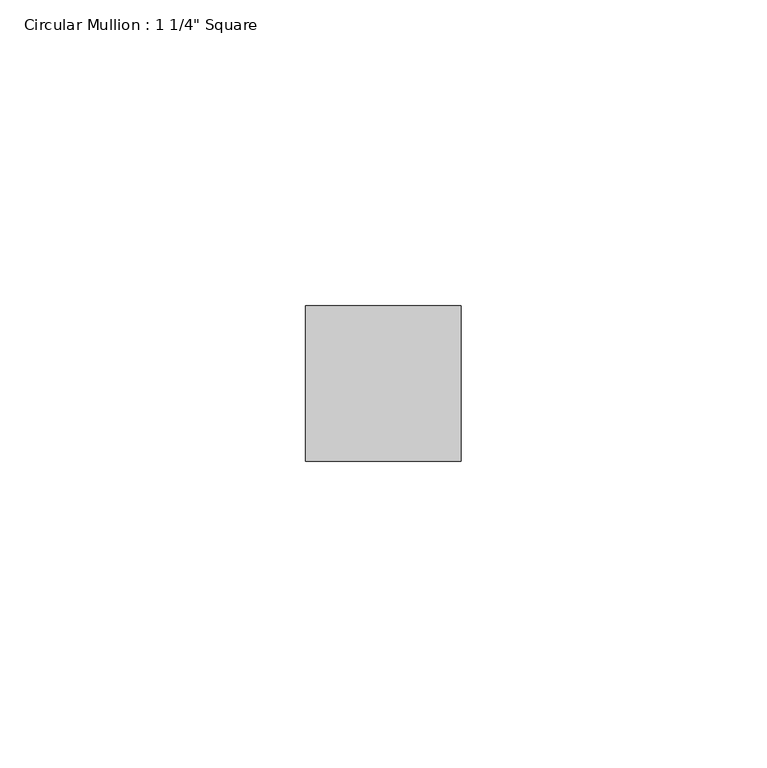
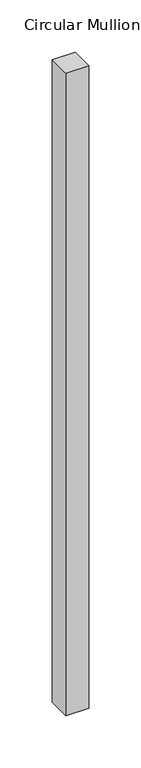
"""IFC4 building model written with IfcOpenShell, lengths in millimetres: member geometry."""

import ifcopenshell
import ifcopenshell.guid

model = None  # the IFC model being written
_history = None  # IfcOwnerHistory: only IFC2X3 demands one
_inside = {}  # id of a spatial element -> (the spatial element, [elements in it])
_under = {}  # id of a project, library or spatial element -> (it, [spatial elements below it])
_declared = {}  # id of a project -> (the project, [libraries it declares])
_typed = {}  # id of a type object -> (the type object, [elements of that type])
_made_of = {}  # id of a material, layer set ... -> (it, [elements and type objects made of it])


def new_model(schema):
    """Start an empty IFC model of exactly this schema.

    Asked for "IFC4X3", IfcOpenShell would pick the latest addendum, in which some entities
    have other attributes; the version numbers below select the first issue.
    IFC2X3 requires an IfcOwnerHistory on every rooted entity: one is made here for all.
    """
    global model, _history
    if schema == "IFC4X3":
        model = ifcopenshell.file(schema_version=(4, 3, 0, 0))
    else:
        model = ifcopenshell.file(schema=schema)
    _inside.clear()
    _under.clear()
    _declared.clear()
    _typed.clear()
    _made_of.clear()
    _history = None
    if model.schema == "IFC2X3":
        org = make("IfcOrganization", Name="unknown")
        user = make(
            "IfcPersonAndOrganization",
            ThePerson=make("IfcPerson", FamilyName="unknown"),
            TheOrganization=org,
        )
        app = make(
            "IfcApplication",
            ApplicationDeveloper=org,
            Version="unknown",
            ApplicationFullName="unknown",
            ApplicationIdentifier="unknown",
        )
        _history = make(
            "IfcOwnerHistory",
            OwningUser=user,
            OwningApplication=app,
            ChangeAction="ADDED",
            CreationDate=0,
        )
    return model


def make(cls, **values):
    """One entity of the class cls with the attributes given. An attribute that is None is left unset."""
    return model.create_entity(
        cls, **{name: value for name, value in values.items() if value is not None}
    )


def rooted(cls, **values):
    """An entity with a GlobalId (a new one), such as an element, a storey or a relation."""
    return make(cls, GlobalId=ifcopenshell.guid.new(), OwnerHistory=_history, **values)


def si_unit(unit_type, name, prefix=None):
    """IfcSIUnit, for example si_unit("LENGTHUNIT", "METRE", prefix="MILLI")."""
    return make("IfcSIUnit", UnitType=unit_type, Prefix=prefix, Name=name)


def assignment(units):
    """IfcUnitAssignment: the units of a project."""
    return None if units is None else make("IfcUnitAssignment", Units=units)


def point(xyz):
    """IfcCartesianPoint."""
    return None if xyz is None else make("IfcCartesianPoint", Coordinates=xyz)


def direction(xyz):
    """IfcDirection."""
    return None if xyz is None else make("IfcDirection", DirectionRatios=xyz)


def frame(location, z_axis=None, x_axis=None):
    """IfcAxis2Placement3D, a coordinate frame: its origin and axes. An axis left out is left unset."""
    return make(
        "IfcAxis2Placement3D",
        Location=point(location),
        Axis=direction(z_axis),
        RefDirection=direction(x_axis),
    )


def origin():
    """The frame at (0, 0, 0) with its axes left unset."""
    return frame((0.0, 0.0, 0.0))


def place(relative_to, where):
    """IfcLocalPlacement: puts the frame where relative to a parent placement (None: the world)."""
    return make(
        "IfcLocalPlacement", PlacementRelTo=relative_to, RelativePlacement=where
    )


def context(
    kind, dimensions, precision=None, world=None, true_north=None, identifier=None
):
    """IfcGeometricRepresentationContext, for example the 3D "Model" context."""
    return make(
        "IfcGeometricRepresentationContext",
        ContextIdentifier=identifier,
        ContextType=kind,
        CoordinateSpaceDimension=dimensions,
        Precision=precision,
        WorldCoordinateSystem=world,
        TrueNorth=true_north,
    )


def project(units=None, contexts=None):
    """IfcProject with its units and contexts."""
    return rooted(
        "IfcProject",
        Name="project",
        RepresentationContexts=contexts,
        UnitsInContext=assignment(units),
    )


def spatial(cls, under=None, at=None, **own):
    """A site, building, storey or space (cls), placed at a placement, below another one or the project."""
    s = rooted(cls, ObjectPlacement=at, **own)
    if under is not None:
        _under.setdefault(under.id(), (under, []))[1].append(s)
    return s


def polyline(points):
    """IfcPolyline through the points."""
    return make("IfcPolyline", Points=[point(p) for p in points])


def outline(outer, holes=None, kind="AREA"):
    """IfcArbitraryClosedProfileDef: a profile drawn as a closed curve; with holes, ...WithVoids."""
    if holes is None:
        return make("IfcArbitraryClosedProfileDef", ProfileType=kind, OuterCurve=outer)
    return make(
        "IfcArbitraryProfileDefWithVoids",
        ProfileType=kind,
        OuterCurve=outer,
        InnerCurves=holes,
    )


def extrude(swept, where, along, depth):
    """IfcExtrudedAreaSolid: the profile swept, set in the frame where, extruded along a direction by depth."""
    return make(
        "IfcExtrudedAreaSolid",
        SweptArea=swept,
        Position=where,
        ExtrudedDirection=direction(along),
        Depth=depth,
    )


def shape(context_of_items, identifier, shape_type, items):
    """IfcShapeRepresentation: the items that make up one representation, for example the "Body"."""
    return make(
        "IfcShapeRepresentation",
        ContextOfItems=context_of_items,
        RepresentationIdentifier=identifier,
        RepresentationType=shape_type,
        Items=items,
    )


def source(mapping_origin, context_of_items, identifier, shape_type, items):
    """IfcRepresentationMap: a shape defined once, which mapped items show again and again."""
    return make(
        "IfcRepresentationMap",
        MappingOrigin=mapping_origin,
        MappedRepresentation=shape(context_of_items, identifier, shape_type, items),
    )


def transform(
    local_origin,
    x_axis=None,
    y_axis=None,
    z_axis=None,
    scale=None,
    scale2=None,
    scale3=None,
    uniform=True,
):
    """IfcCartesianTransformationOperator3D, or its non-uniform kind. x_axis, y_axis, z_axis: its Axis1, 2, 3."""
    if uniform:
        return make(
            "IfcCartesianTransformationOperator3D",
            Axis1=direction(x_axis),
            Axis2=direction(y_axis),
            LocalOrigin=point(local_origin),
            Scale=scale,
            Axis3=direction(z_axis),
        )
    return make(
        "IfcCartesianTransformationOperator3DnonUniform",
        Axis1=direction(x_axis),
        Axis2=direction(y_axis),
        LocalOrigin=point(local_origin),
        Scale=scale,
        Axis3=direction(z_axis),
        Scale2=scale2,
        Scale3=scale3,
    )


def mapped(mapping_source, mapping_target):
    """IfcMappedItem: shows the shape of a source again, moved by a transform."""
    return make(
        "IfcMappedItem", MappingSource=mapping_source, MappingTarget=mapping_target
    )


def made_of(thing, what):
    """Note that an element or type object is made of a material, layer set ...; save() writes the relation."""
    if what is not None:
        _made_of.setdefault(what.id(), (what, []))[1].append(thing)
    return thing


def element(
    cls,
    number,
    at=None,
    inside=None,
    cuts=None,
    type_object=None,
    material=None,
    context=None,
    identifier="Body",
    shape_type=None,
    held_by="IfcProductDefinitionShape",
    body=None,
    shapes=None,
    **own,
):
    """One element of the class cls, such as IfcWall. Its Tag is "e" and its number.

    at: its placement. inside: the storey or other place that contains it. cuts: it is an
    opening in that element (IfcRelVoidsElement). A single representation is given by context,
    identifier, shape_type and body (its items); several are given by shapes. held_by: the class
    of the entity that holds the representations. save() writes the other relations.
    """
    e = rooted(cls, Tag="e%d" % number, ObjectPlacement=at, **own)
    if body is not None:
        shapes = [shape(context, identifier, shape_type, body)]
    if shapes is not None:
        e.Representation = make(held_by, Representations=shapes)
    if inside is not None:
        _inside.setdefault(inside.id(), (inside, []))[1].append(e)
    if cuts is not None:
        rooted(
            "IfcRelVoidsElement", RelatingBuildingElement=cuts, RelatedOpeningElement=e
        )
    if type_object is not None:
        _typed.setdefault(type_object.id(), (type_object, []))[1].append(e)
    return made_of(e, material)


def aggregate(whole, parts):
    """IfcRelAggregates: a whole, such as a stair, and the parts it consists of."""
    return rooted("IfcRelAggregates", RelatingObject=whole, RelatedObjects=parts)


def save(model, path):
    """Write the relations noted so far, then the file.

    IfcRelAggregates (storeys below a building ...), IfcRelContainedInSpatialStructure (elements
    in a storey), IfcRelDefinesByType, IfcRelAssociatesMaterial and IfcRelDeclares: one each for
    every whole, place, type object, material and project.
    """
    for whole, parts in _under.values():
        aggregate(whole, parts)
    for where, things in _inside.values():
        rooted(
            "IfcRelContainedInSpatialStructure",
            RelatedElements=things,
            RelatingStructure=where,
        )
    for kind, things in _typed.values():
        rooted("IfcRelDefinesByType", RelatedObjects=things, RelatingType=kind)
    for what, things in _made_of.values():
        rooted("IfcRelAssociatesMaterial", RelatedObjects=things, RelatingMaterial=what)
    for by, libraries in _declared.values():
        rooted("IfcRelDeclares", RelatingContext=by, RelatedDefinitions=libraries)
    model.write(path)


def member_9f9ec4ec(model_context):
    return source(origin(), model_context, "Body", "SweptSolid", [
        extrude(outline(polyline([(0.0, 12.7), (0.0, -12.7), (-25.4, -12.7), (-25.4, 12.7), (0.0, 12.7)])), frame((0.0, 0.0, -749.3), z_axis=(0.0, 0.0, 1.0), x_axis=(1.0, 0.0, 0.0)), (0.0, 0.0, 1.0), 749.3),
    ])


if __name__ == "__main__":
    model = new_model("IFC4")
    model_context = context("Model", 3, world=origin())
    ifc_project = project(units=[si_unit("LENGTHUNIT", "METRE", prefix="MILLI")], contexts=[model_context])
    site = spatial("IfcSite", under=ifc_project)
    building = spatial("IfcBuilding", under=site)
    placement = place(None, origin())
    member_shape = member_9f9ec4ec(model_context)
    element("IfcMember", 1, ObjectType="Circular Mullion : 1 1/4\" Square", at=placement, inside=building, context=model_context, shape_type="MappedRepresentation", body=[
        mapped(member_shape, transform((0.0, 0.0, 0.0), x_axis=(1.0, 0.0, 0.0), y_axis=(0.0, 1.0, 0.0), z_axis=(0.0, 0.0, 1.0))),
    ])
    save(model, "model.ifc")
